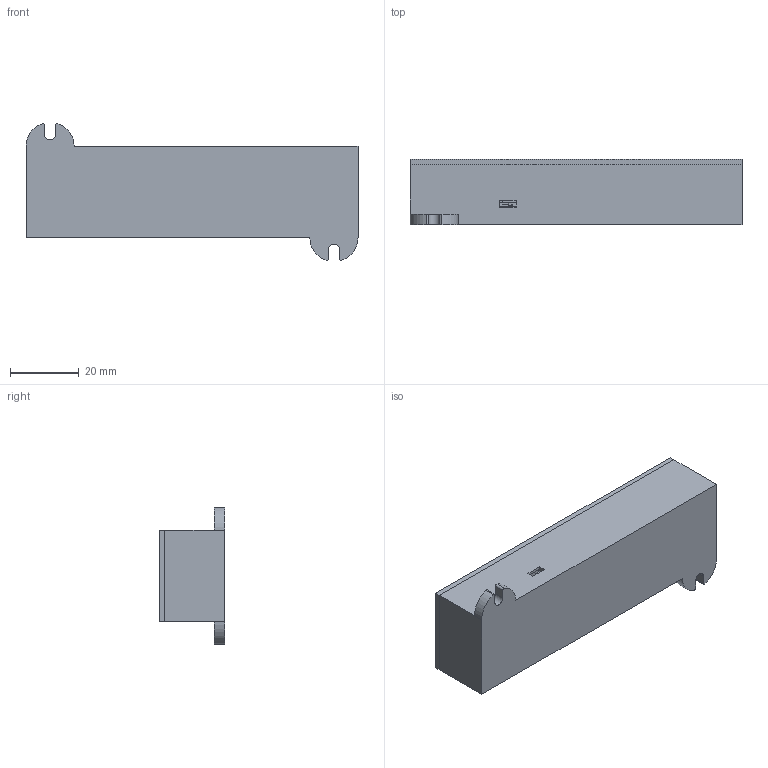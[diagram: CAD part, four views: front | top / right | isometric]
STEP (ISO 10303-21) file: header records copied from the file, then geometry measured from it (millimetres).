
FILE_DESCRIPTION (( 'STEP AP214' ), '1' );
FILE_NAME ('SPIextender.STEP', '2020-11-11T15:47:21', ( '' ), ( '' ), 'SwSTEP 2.0', 'SolidWorks 2021', '' );
FILE_SCHEMA (( 'AUTOMOTIVE_DESIGN' ));
Length unit declared in the file: millimetre
Products named in the file (4): MEC445.02.00 Coperchio; SPIextender; DDS1120; MEC445.01.00 Base
Assembly tree (3 placements, depth 2):
  SPIextender
    MEC445.01.00 Base
    DDS1120
    MEC445.02.00 Coperchio
Bounding box: 96.5 x 19 x 39.8 mm (x, y, z)
Volume: 14307.8 mm3; surface area: 35564.8 mm2
Topology: 2 solids, 191 shells, 5082 faces, 13049 edges, 8452 vertices
Faces by surface type: plane 3138, cylinder 1502, torus 166, bspline 162, sphere 66, cone 48
Entity records: 180146 total; most frequent: CARTESIAN_POINT 45060, ORIENTED_EDGE 26022, DIRECTION 25898, EDGE_CURVE 13013, VECTOR 9060, LINE 9060, VERTEX_POINT 8452, AXIS2_PLACEMENT_3D 8419
